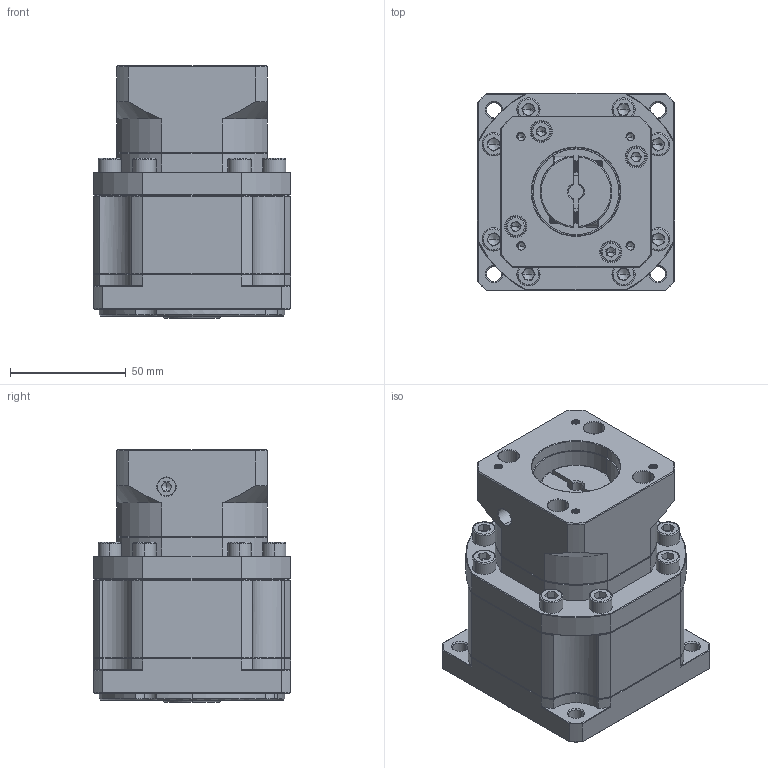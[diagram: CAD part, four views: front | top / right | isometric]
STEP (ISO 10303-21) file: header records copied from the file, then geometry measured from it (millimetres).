
FILE_DESCRIPTION (( 'STEP AP214' ), '1' );
FILE_NAME ('ZB090-K15-L2-P2-6.35-38.1-47.14X47.14-M4.step', '2023-08-18T13:40:48', ( '' ), ( '' ), 'SwSTEP 2.0', 'SolidWorks 2016', '' );
FILE_SCHEMA (( 'AUTOMOTIVE_DESIGN' ));
Length unit declared in the file: millimetre
Products named in the file (1): ZB090-K15-L2-P2-6.35-38.1-47.14X47.14-M4
Bounding box: 85 x 85 x 109 mm (x, y, z)
Volume: 530776.8 mm3; surface area: 74923.3 mm2
Topology: 6 solids, 6 shells, 2301 faces, 6128 edges, 3922 vertices
Faces by surface type: plane 1178, bspline 416, cylinder 367, cone 318, torus 22
Entity records: 116987 total; most frequent: CARTESIAN_POINT 37536, ORIENTED_EDGE 12168, DIRECTION 9749, EDGE_CURVE 6084, VERTEX_POINT 3922, LINE 3883, VECTOR 3883, AXIS2_PLACEMENT_3D 2933
